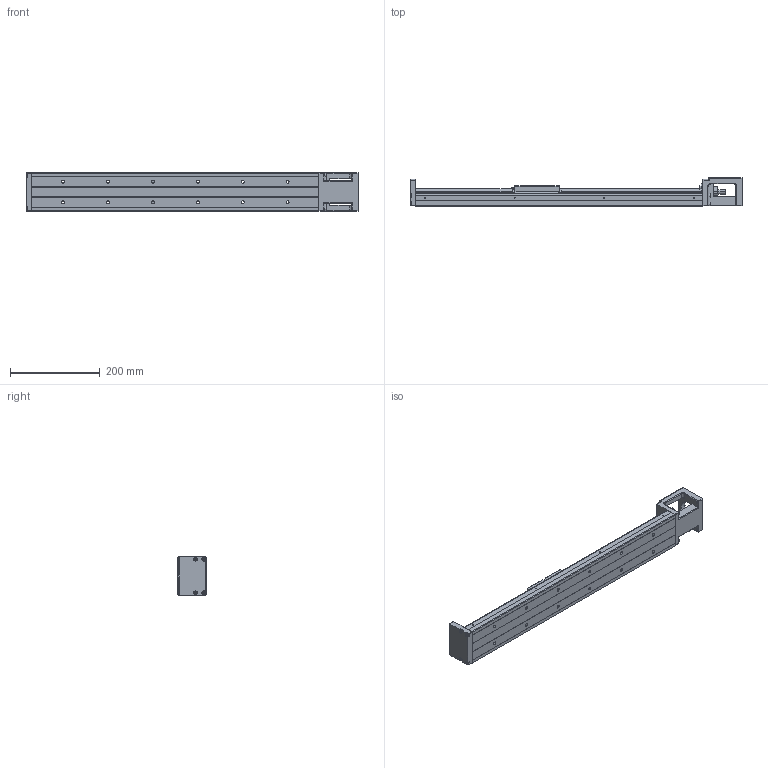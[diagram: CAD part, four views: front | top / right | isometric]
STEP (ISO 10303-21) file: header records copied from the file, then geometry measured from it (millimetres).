
FILE_DESCRIPTION (( 'STEP AP203' ), '1' );
FILE_NAME ('HKK86D20C-740A1-F0.stp', '2021-11-25T03:56:10', ( '' ), ( '' ), 'SwSTEP 2.0', 'SolidWorks 2018', '' );
FILE_SCHEMA (( 'CONFIG_CONTROL_DESIGN' ));
Length unit declared in the file: millimetre
Products named in the file (1): HKK86D20C-740A1-F0
Bounding box: 740 x 64 x 86 mm (x, y, z)
Volume: 1411759.6 mm3; surface area: 289351 mm2
Topology: 2 solids, 2 shells, 621 faces, 1655 edges, 1040 vertices
Faces by surface type: plane 295, cylinder 235, cone 74, sphere 9, torus 8
Entity records: 19451 total; most frequent: CARTESIAN_POINT 3889, DIRECTION 3275, ORIENTED_EDGE 3186, EDGE_CURVE 1593, AXIS2_PLACEMENT_3D 1133, VERTEX_POINT 1036, LINE 1009, VECTOR 1009
